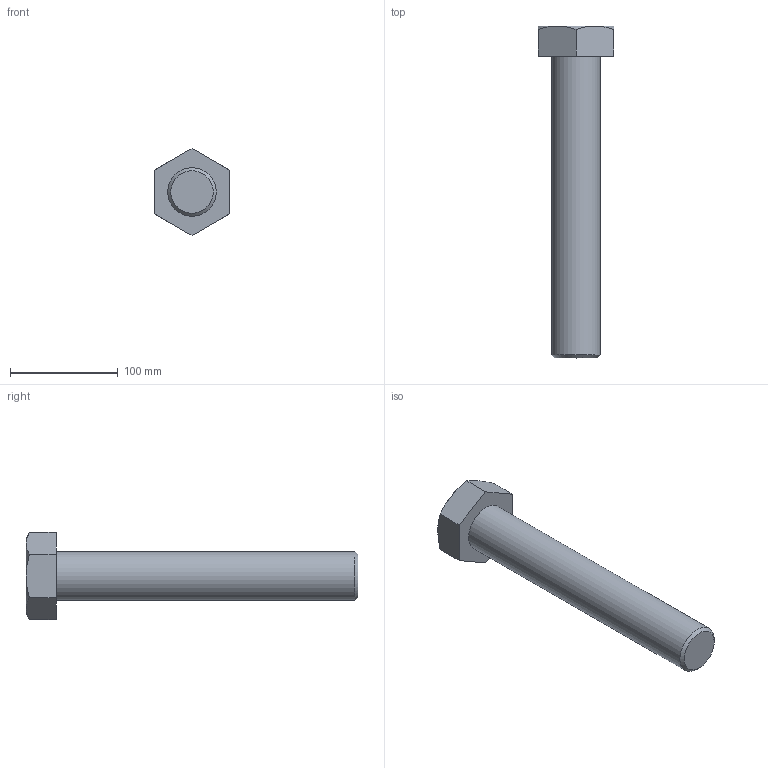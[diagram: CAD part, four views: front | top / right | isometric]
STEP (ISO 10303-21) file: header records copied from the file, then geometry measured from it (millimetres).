
FILE_DESCRIPTION(/* description */ (''),/* implementation_level */ '2;1');
FILE_NAME(/* name */ 'C:\Users\unitec\Documents\Inventor\各種小物\JIS\JIS B 1180 六角ボルト 等級C\hbc45\M45x280.stp',/* time_stamp */ '2015-02-13T14:58:26+09:00',/* author */ ('unitec'),/* organization */ (''),/* preprocessor_version */ 'ST-DEVELOPER v15.2',/* originating_system */ 'Autodesk Inventor 2014',/* authorisation */ '');
FILE_SCHEMA (('AUTOMOTIVE_DESIGN { 1 0 10303 214 3 1 1 }'));
Length unit declared in the file: millimetre
Products named in the file (1): M45x280
Bounding box: 70 x 308 x 80.83 mm (x, y, z)
Volume: 563250.7 mm3; surface area: 54423.4 mm2
Topology: 1 solids, 1 shells, 17 faces, 35 edges, 21 vertices
Faces by surface type: plane 9, cone 7, cylinder 1
Full cylindrical faces by diameter (mm): 45 x1
Entity records: 441 total; most frequent: CARTESIAN_POINT 96, ORIENTED_EDGE 66, DIRECTION 66, EDGE_CURVE 33, AXIS2_PLACEMENT_3D 27, VERTEX_POINT 21, EDGE_LOOP 20, ADVANCED_FACE 17
